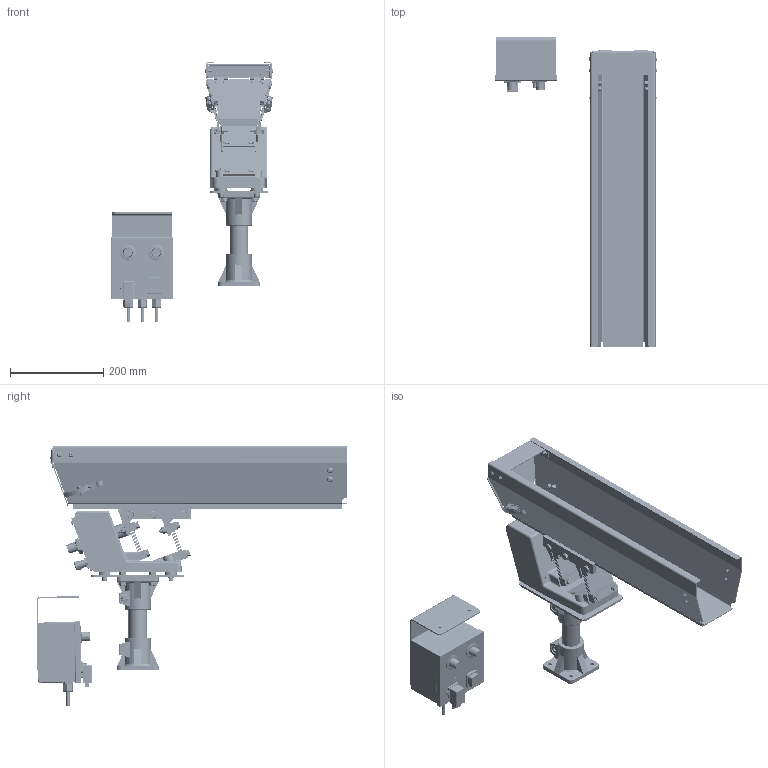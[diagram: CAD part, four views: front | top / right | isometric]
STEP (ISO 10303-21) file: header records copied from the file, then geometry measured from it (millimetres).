
FILE_DESCRIPTION (( 'STEP AP214' ), '1' );
FILE_NAME ('Bulk Feeder 10lt V2.0.STEP', '2021-11-16T14:42:26', ( '' ), ( '' ), 'SwSTEP 2.0', 'SolidWorks 2020', '' );
FILE_SCHEMA (( 'AUTOMOTIVE_DESIGN' ));
Length unit declared in the file: millimetre
Products named in the file (37): CM000055; CM000071; CM000029; SM000080; PD001092; CM000064; PD001013; CM000306; PD001091; CM000306_002; PD001012_001; CM000045; CM000305_002; PD000067; CM000023; CM000027; PD001012; CM000305; CM000031; CM000079; CM000274; CM000934; CM000305_003; CM000306_001; PD001014; CM000559; PD001016; CM000432; CM000979; CM000305_001; CE000026; CM000306_003; Bulk Feeder 10lt V2.0; CM000561; PD001012_002
Assembly tree (102 placements, depth 3):
  Bulk Feeder 10lt V2.0
    CM000045  x8
    CM000027  x4
    CM000023  x4
    CM000561  x10
    CM000029  x8
    CM000079  x4
    CM000559  x8
    CM000071  x4
    CM000274  x4
    CM000979  x6
    CM000064  x4
    CM000031  x4
    PD001012
      PD001012_001
      PD001012_002
    CM000306
      CM000306_001
      CM000306_002
      CM000306_003
    CM000306
      CM000306_001
      CM000306_002
      CM000306_003
    PD001016
    PD001014
    PD001013
    CM000055
    PD000067
    CE000026
    CM000305
      CM000305_001
      CM000305_003
      CM000305_002
    CM000305
      CM000305_001
      CM000305_003
      CM000305_002
    PD001092
    PD001091
    CM000432  x2
    SM000080
    CM000934  x4
Bounding box: 346.8 x 665.05 x 558.58 mm (x, y, z)
Volume: 5174682.5 mm3; surface area: 1362105.4 mm2
Topology: 97 solids, 119 shells, 9257 faces, 24993 edges, 16113 vertices
Faces by surface type: cylinder 6450, plane 1667, cone 729, torus 255, sphere 126, bspline 30
Entity records: 128676 total; most frequent: CARTESIAN_POINT 39164, ORIENTED_EDGE 18918, DIRECTION 16773, EDGE_CURVE 9459, AXIS2_PLACEMENT_3D 6684, VERTEX_POINT 6006, EDGE_LOOP 4085, FACE_OUTER_BOUND 3719
